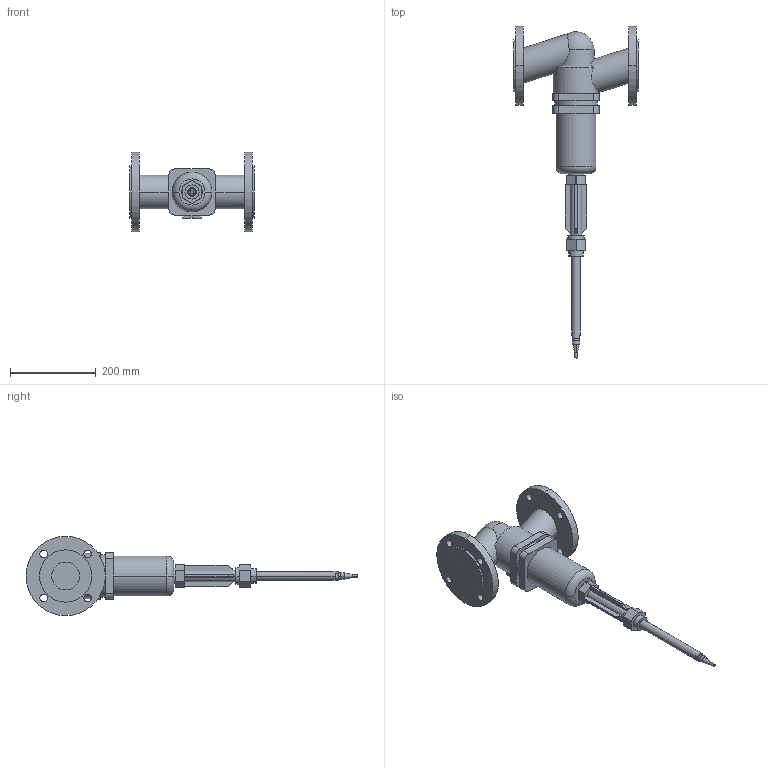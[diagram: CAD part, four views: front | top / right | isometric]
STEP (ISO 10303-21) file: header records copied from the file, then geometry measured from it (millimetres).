
FILE_DESCRIPTION(('CoCreate Modeling STEP Export'),'2;1');
FILE_NAME('c000004778.stp','2011-09-22T10:49:07',(''),(''),'CoCreate Modeling STEP processor for AP214 (Solid Model)','CoCreate Modeling 17.0 01-Apr-2010 (C) Parametric Technology GmbH','');
FILE_SCHEMA(('AUTOMOTIVE_DESIGN { 1 0 10303 214 1 1 1 1 }'));
Length unit declared in the file: millimetre
Products named in the file (1): 1
Bounding box: 290 x 774.44 x 185 mm (x, y, z)
Volume: 4474641.7 mm3; surface area: 330453 mm2
Topology: 1 solids, 1 shells, 170 faces, 427 edges, 278 vertices
Faces by surface type: plane 80, cylinder 76, cone 10, torus 2, sphere 2
Entity records: 6432 total; most frequent: CARTESIAN_POINT 1220, ORIENTED_EDGE 850, DIRECTION 727, EDGE_CURVE 425, VERTEX_POINT 278, AXIS2_PLACEMENT_3D 253, VECTOR 221, LINE 221
